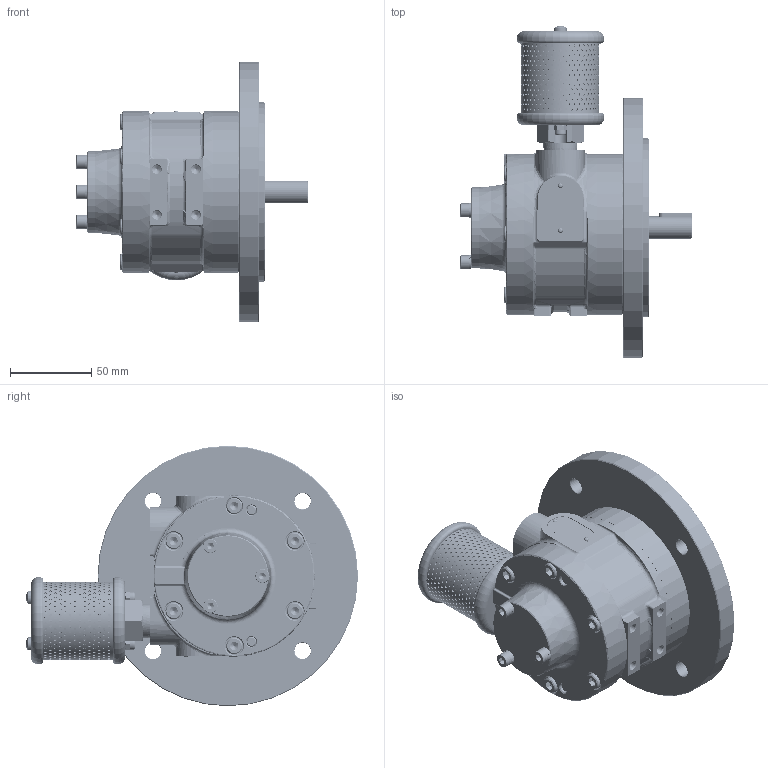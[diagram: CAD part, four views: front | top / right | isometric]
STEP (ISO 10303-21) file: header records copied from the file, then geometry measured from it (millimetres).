
FILE_DESCRIPTION (( 'STEP AP214' ), '1' );
FILE_NAME ('4VMD (IEC)_Solid 29-07-25.STEP', '2025-07-29T11:18:08', ( '' ), ( '' ), 'SwSTEP 2.0', 'SolidWorks 2017', '' );
FILE_SCHEMA (( 'AUTOMOTIVE_DESIGN' ));
Length unit declared in the file: millimetre
Products named in the file (2): 4VMD (IEC)_Solid 29-07-25
Bounding box: 141.93 x 203.95 x 160 mm (x, y, z)
Volume: 919553.6 mm3; surface area: 286290.5 mm2
Topology: 85 solids, 85 shells, 4911 faces, 12699 edges, 7902 vertices
Faces by surface type: cylinder 2551, cone 1077, plane 891, torus 252, bspline 126, sphere 14
Entity records: 278002 total; most frequent: CARTESIAN_POINT 105926, ORIENTED_EDGE 25122, DIRECTION 22310, EDGE_CURVE 12561, AXIS2_PLACEMENT_3D 8743, VERTEX_POINT 7902, EDGE_LOOP 6643, UNCERTAINTY_MEASURE_WITH_UNIT 4998
